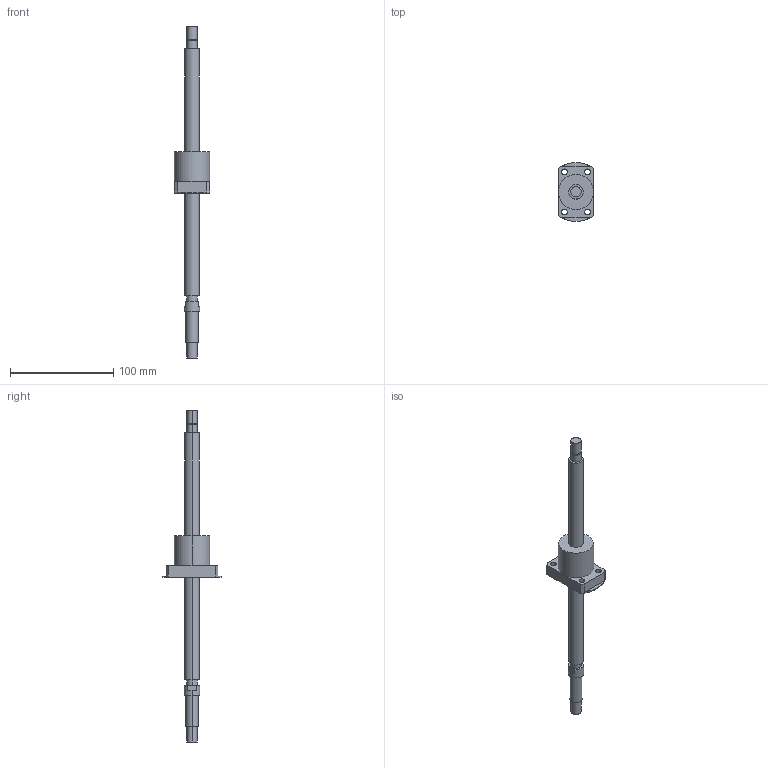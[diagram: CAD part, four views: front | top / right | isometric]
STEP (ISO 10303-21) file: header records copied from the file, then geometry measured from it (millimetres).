
FILE_DESCRIPTION((''),'2;1');
FILE_NAME('R14-5B1-FSW-239-321','2008-03-28T',('mahdi'),(''),'PRO/ENGINEER BY PARAMETRIC TECHNOLOGY CORPORATION, 2005070','PRO/ENGINEER BY PARAMETRIC TECHNOLOGY CORPORATION, 2005070','');
FILE_SCHEMA(('CONFIG_CONTROL_DESIGN'));
Length unit declared in the file: millimetre
Products named in the file (1): R14-5B1-FSW-239-321
Bounding box: 34 x 57 x 321 mm (x, y, z)
Volume: 81963.4 mm3; surface area: 21227.2 mm2
Topology: 1 solids, 1 shells, 65 faces, 146 edges, 96 vertices
Faces by surface type: cylinder 38, plane 27
Entity records: 1906 total; most frequent: DIRECTION 360, CARTESIAN_POINT 307, ORIENTED_EDGE 292, AXIS2_PLACEMENT_3D 149, EDGE_CURVE 146, VERTEX_POINT 96, EDGE_LOOP 86, CIRCLE 84
